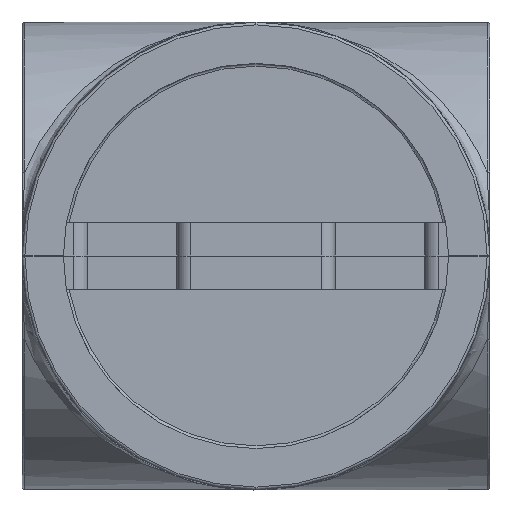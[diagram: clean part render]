
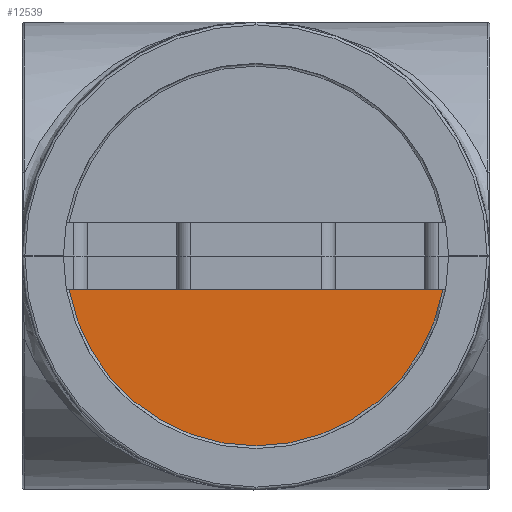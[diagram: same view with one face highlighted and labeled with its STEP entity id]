
A CAD part, left-side view. The second image highlights one B-rep face of the part: STEP entity #12539.
In plain terms, the highlighted planar face has unit normal (-1, 0, 0).
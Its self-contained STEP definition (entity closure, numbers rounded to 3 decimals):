
#787 = EDGE_CURVE ( 'NONE', #11546, #5846, #2837, .T. ) ;
#1929 = CARTESIAN_POINT ( 'NONE',  ( -27.75, 0., -14. ) ) ;
#2837 = LINE ( 'NONE', #9328, #9167 ) ;
#4159 = CARTESIAN_POINT ( 'NONE',  ( -27.75, -13.59, -2.4 ) ) ;
#5716 = ORIENTED_EDGE ( 'NONE', *, *, #787, .F. ) ;
#5846 = VERTEX_POINT ( 'NONE', #4159 ) ;
#7284 = CIRCLE ( 'NONE', #23484, 13.8 ) ;
#7431 = DIRECTION ( 'NONE',  ( 0., 0., 1. ) ) ;
#9167 = VECTOR ( 'NONE', #17962, 1000. ) ;
#9328 = CARTESIAN_POINT ( 'NONE',  ( -27.75, 14., -2.4 ) ) ;
#10554 = DIRECTION ( 'NONE',  ( -1., 0., 0. ) ) ;
#11546 = VERTEX_POINT ( 'NONE', #20673 ) ;
#12539 = ADVANCED_FACE ( 'NONE', ( #12680 ), #21318, .T. ) ;
#12680 = FACE_OUTER_BOUND ( 'NONE', #18132, .T. ) ;
#17084 = ORIENTED_EDGE ( 'NONE', *, *, #23932, .T. ) ;
#17962 = DIRECTION ( 'NONE',  ( 0., -1., 0. ) ) ;
#18132 = EDGE_LOOP ( 'NONE', ( #5716, #17084 ) ) ;
#18181 = CARTESIAN_POINT ( 'NONE',  ( -27.75, 0., 0. ) ) ;
#19197 = DIRECTION ( 'NONE',  ( 0., 0., 1. ) ) ;
#20673 = CARTESIAN_POINT ( 'NONE',  ( -27.75, 13.59, -2.4 ) ) ;
#21318 = PLANE ( 'NONE',  #24647 ) ;
#23484 = AXIS2_PLACEMENT_3D ( 'NONE', #18181, #26805, #7431 ) ;
#23932 = EDGE_CURVE ( 'NONE', #11546, #5846, #7284, .T. ) ;
#24647 = AXIS2_PLACEMENT_3D ( 'NONE', #1929, #10554, #19197 ) ;
#26805 = DIRECTION ( 'NONE',  ( -1., 0., 0. ) ) ;
